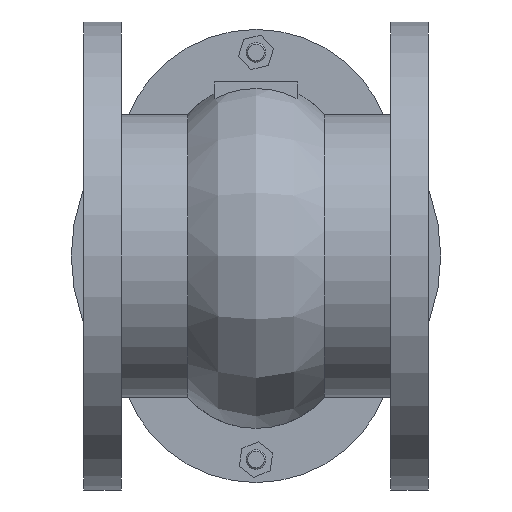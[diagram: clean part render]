
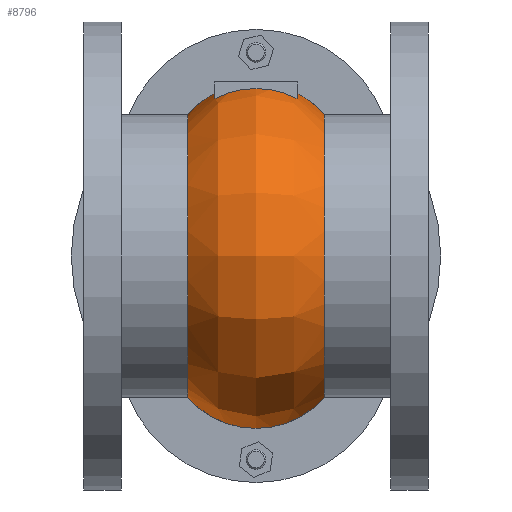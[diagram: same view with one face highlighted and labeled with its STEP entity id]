
A CAD part, front view. The second image highlights one B-rep face of the part: STEP entity #8796.
In plain terms, the highlighted free-form (B-spline) face has degree [2, 2] with [5, 5] control points.
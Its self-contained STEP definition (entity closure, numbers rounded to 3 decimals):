
#21=(
BOUNDED_SURFACE()
B_SPLINE_SURFACE(2,2,((#14962,#14963,#14964,#14965,#14966),(#14967,#14968,
#14969,#14970,#14971),(#14972,#14973,#14974,#14975,#14976),(#14977,#14978,
#14979,#14980,#14981),(#14982,#14983,#14984,#14985,#14986)),
 .UNSPECIFIED.,.F.,.F.,.F.)
B_SPLINE_SURFACE_WITH_KNOTS((3,2,3),(3,2,3),(-0.857,0.,
0.857),(-3.142,-1.571,0.),
 .UNSPECIFIED.)
GEOMETRIC_REPRESENTATION_ITEM()
RATIONAL_B_SPLINE_SURFACE(((1.,0.707,1.,0.707,1.),
(0.91,0.643,0.91,0.643,
0.91),(1.,0.707,1.,0.707,1.),(0.91,
0.643,0.91,0.643,0.91),
(1.,0.707,1.,0.707,1.)))
REPRESENTATION_ITEM('')
SURFACE()
);
#146=CIRCLE('',#9019,98.99);
#148=CIRCLE('',#9024,98.99);
#149=CIRCLE('',#9027,55.);
#151=CIRCLE('',#9029,55.);
#238=CIRCLE('',#9333,86.);
#239=CIRCLE('',#9334,86.);
#240=CIRCLE('',#9335,55.);
#241=CIRCLE('',#9336,86.);
#242=CIRCLE('',#9337,86.);
#2541=FACE_OUTER_BOUND('',#3048,.T.);
#3048=EDGE_LOOP('',(#7316,#7317,#7318,#7319,#7320,#7321,#7322,#7323,#7324,
#7325));
#3308=B_SPLINE_CURVE_WITH_KNOTS('',3,(#13727,#13728,#13729,#13730,#13731,
#13732,#13733,#13734,#13735,#13736,#13737,#13738,#13739,#13740),
 .UNSPECIFIED.,.F.,.F.,(4,2,2,2,2,2,4),(35.248,35.71,
36.71,37.711,38.712,39.713,40.175),
 .UNSPECIFIED.);
#3687=VERTEX_POINT('',#13718);
#3689=VERTEX_POINT('',#13721);
#3690=VERTEX_POINT('',#13726);
#3692=VERTEX_POINT('',#13747);
#3693=VERTEX_POINT('',#13752);
#3698=VERTEX_POINT('',#13775);
#4031=VERTEX_POINT('',#14987);
#4032=VERTEX_POINT('',#14989);
#4033=VERTEX_POINT('',#14991);
#4034=VERTEX_POINT('',#14993);
#4653=EDGE_CURVE('',#3689,#3687,#146,.T.);
#4656=EDGE_CURVE('',#3690,#3689,#3308,.T.);
#4661=EDGE_CURVE('',#3692,#3690,#148,.T.);
#4662=EDGE_CURVE('',#3692,#3693,#149,.T.);
#4668=EDGE_CURVE('',#3698,#3687,#151,.T.);
#5170=EDGE_CURVE('',#4031,#3698,#238,.T.);
#5171=EDGE_CURVE('',#4032,#4031,#239,.T.);
#5172=EDGE_CURVE('',#4033,#4032,#240,.T.);
#5173=EDGE_CURVE('',#4034,#4033,#241,.T.);
#5174=EDGE_CURVE('',#3693,#4034,#242,.T.);
#7316=ORIENTED_EDGE('',*,*,#4653,.T.);
#7317=ORIENTED_EDGE('',*,*,#4668,.F.);
#7318=ORIENTED_EDGE('',*,*,#5170,.F.);
#7319=ORIENTED_EDGE('',*,*,#5171,.F.);
#7320=ORIENTED_EDGE('',*,*,#5172,.F.);
#7321=ORIENTED_EDGE('',*,*,#5173,.F.);
#7322=ORIENTED_EDGE('',*,*,#5174,.F.);
#7323=ORIENTED_EDGE('',*,*,#4662,.F.);
#7324=ORIENTED_EDGE('',*,*,#4661,.T.);
#7325=ORIENTED_EDGE('',*,*,#4656,.T.);
#8796=ADVANCED_FACE('',(#2541),#21,.F.);
#9019=AXIS2_PLACEMENT_3D('',#13722,#10122,#10123);
#9024=AXIS2_PLACEMENT_3D('',#13749,#10137,#10138);
#9027=AXIS2_PLACEMENT_3D('',#13753,#10143,#10144);
#9029=AXIS2_PLACEMENT_3D('',#13790,#10149,#10150);
#9333=AXIS2_PLACEMENT_3D('',#14988,#11148,#11149);
#9334=AXIS2_PLACEMENT_3D('',#14990,#11150,#11151);
#9335=AXIS2_PLACEMENT_3D('',#14992,#11152,#11153);
#9336=AXIS2_PLACEMENT_3D('',#14994,#11154,#11155);
#9337=AXIS2_PLACEMENT_3D('',#14995,#11156,#11157);
#10122=DIRECTION('center_axis',(-1.,0.,0.));
#10123=DIRECTION('ref_axis',(0.,0.,-1.));
#10137=DIRECTION('center_axis',(1.,0.,0.));
#10138=DIRECTION('ref_axis',(0.,0.,-1.));
#10143=DIRECTION('center_axis',(0.,1.,0.));
#10144=DIRECTION('ref_axis',(1.,0.,0.));
#10149=DIRECTION('center_axis',(0.,1.,0.));
#10150=DIRECTION('ref_axis',(1.,0.,0.));
#11148=DIRECTION('center_axis',(-1.,0.,0.));
#11149=DIRECTION('ref_axis',(0.,1.,0.));
#11150=DIRECTION('center_axis',(-1.,0.,0.));
#11151=DIRECTION('ref_axis',(0.,1.,0.));
#11152=DIRECTION('center_axis',(0.,1.,0.));
#11153=DIRECTION('ref_axis',(-1.,0.,0.));
#11154=DIRECTION('center_axis',(1.,0.,0.));
#11155=DIRECTION('ref_axis',(0.,1.,0.));
#11156=DIRECTION('center_axis',(1.,0.,0.));
#11157=DIRECTION('ref_axis',(0.,1.,0.));
#13718=CARTESIAN_POINT('',(-74.389,-51.327,98.99));
#13721=CARTESIAN_POINT('',(-74.389,-76.327,95.781));
#13722=CARTESIAN_POINT('Origin',(-74.389,-51.327,0.));
#13726=CARTESIAN_POINT('',(-24.389,-76.327,95.781));
#13727=CARTESIAN_POINT('Ctrl Pts',(-24.389,-76.327,
95.781));
#13728=CARTESIAN_POINT('Ctrl Pts',(-25.838,-76.327,
96.545));
#13729=CARTESIAN_POINT('Ctrl Pts',(-27.292,-76.327,
97.226));
#13730=CARTESIAN_POINT('Ctrl Pts',(-31.789,-76.327,
99.11));
#13731=CARTESIAN_POINT('Ctrl Pts',(-35.278,-76.327,100.212));
#13732=CARTESIAN_POINT('Ctrl Pts',(-42.41,-76.327,
101.647));
#13733=CARTESIAN_POINT('Ctrl Pts',(-46.053,-76.327,
101.98));
#13734=CARTESIAN_POINT('Ctrl Pts',(-52.726,-76.327,
101.98));
#13735=CARTESIAN_POINT('Ctrl Pts',(-56.369,-76.327,101.647));
#13736=CARTESIAN_POINT('Ctrl Pts',(-63.5,-76.327,
100.212));
#13737=CARTESIAN_POINT('Ctrl Pts',(-66.989,-76.327,
99.11));
#13738=CARTESIAN_POINT('Ctrl Pts',(-71.487,-76.327,
97.226));
#13739=CARTESIAN_POINT('Ctrl Pts',(-72.94,-76.327,
96.545));
#13740=CARTESIAN_POINT('Ctrl Pts',(-74.389,-76.327,
95.781));
#13747=CARTESIAN_POINT('',(-24.389,-51.327,98.99));
#13749=CARTESIAN_POINT('Origin',(-24.389,-51.327,0.));
#13752=CARTESIAN_POINT('',(-7.808,-51.327,86.));
#13753=CARTESIAN_POINT('Origin',(-49.389,-51.327,50.));
#13775=CARTESIAN_POINT('',(-90.97,-51.327,86.));
#13790=CARTESIAN_POINT('Origin',(-49.389,-51.327,50.));
#14962=CARTESIAN_POINT('Ctrl Pts',(-90.97,-51.327,86.));
#14963=CARTESIAN_POINT('Ctrl Pts',(-90.97,-137.327,86.));
#14964=CARTESIAN_POINT('Ctrl Pts',(-90.97,-137.327,0.));
#14965=CARTESIAN_POINT('Ctrl Pts',(-90.97,-137.327,-86.));
#14966=CARTESIAN_POINT('Ctrl Pts',(-90.97,-51.327,-86.));
#14967=CARTESIAN_POINT('Ctrl Pts',(-74.521,-51.327,
105.));
#14968=CARTESIAN_POINT('Ctrl Pts',(-74.521,-156.327,
105.));
#14969=CARTESIAN_POINT('Ctrl Pts',(-74.521,-156.327,
0.));
#14970=CARTESIAN_POINT('Ctrl Pts',(-74.521,-156.327,
-105.));
#14971=CARTESIAN_POINT('Ctrl Pts',(-74.521,-51.327,
-105.));
#14972=CARTESIAN_POINT('Ctrl Pts',(-49.389,-51.327,
105.));
#14973=CARTESIAN_POINT('Ctrl Pts',(-49.389,-156.327,
105.));
#14974=CARTESIAN_POINT('Ctrl Pts',(-49.389,-156.327,
0.));
#14975=CARTESIAN_POINT('Ctrl Pts',(-49.389,-156.327,
-105.));
#14976=CARTESIAN_POINT('Ctrl Pts',(-49.389,-51.327,
-105.));
#14977=CARTESIAN_POINT('Ctrl Pts',(-24.258,-51.327,
105.));
#14978=CARTESIAN_POINT('Ctrl Pts',(-24.258,-156.327,
105.));
#14979=CARTESIAN_POINT('Ctrl Pts',(-24.258,-156.327,
0.));
#14980=CARTESIAN_POINT('Ctrl Pts',(-24.258,-156.327,
-105.));
#14981=CARTESIAN_POINT('Ctrl Pts',(-24.258,-51.327,
-105.));
#14982=CARTESIAN_POINT('Ctrl Pts',(-7.808,-51.327,86.));
#14983=CARTESIAN_POINT('Ctrl Pts',(-7.808,-137.327,86.));
#14984=CARTESIAN_POINT('Ctrl Pts',(-7.808,-137.327,0.));
#14985=CARTESIAN_POINT('Ctrl Pts',(-7.808,-137.327,-86.));
#14986=CARTESIAN_POINT('Ctrl Pts',(-7.808,-51.327,-86.));
#14987=CARTESIAN_POINT('',(-90.97,-137.327,0.));
#14988=CARTESIAN_POINT('Origin',(-90.97,-51.327,0.));
#14989=CARTESIAN_POINT('',(-90.97,-51.327,-86.));
#14990=CARTESIAN_POINT('Origin',(-90.97,-51.327,0.));
#14991=CARTESIAN_POINT('',(-7.808,-51.327,-86.));
#14992=CARTESIAN_POINT('Origin',(-49.389,-51.327,-50.));
#14993=CARTESIAN_POINT('',(-7.808,-137.327,0.));
#14994=CARTESIAN_POINT('Origin',(-7.808,-51.327,0.));
#14995=CARTESIAN_POINT('Origin',(-7.808,-51.327,0.));
